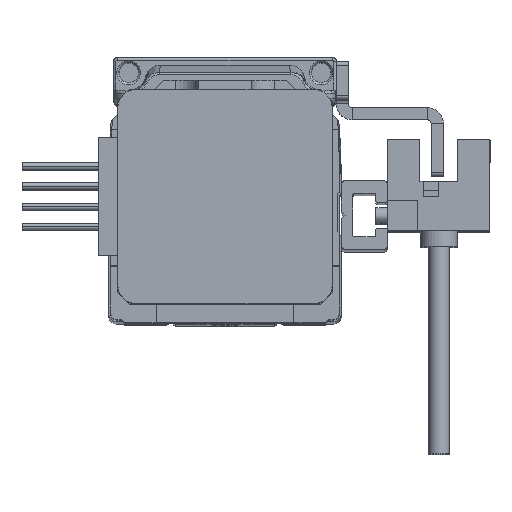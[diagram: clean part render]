
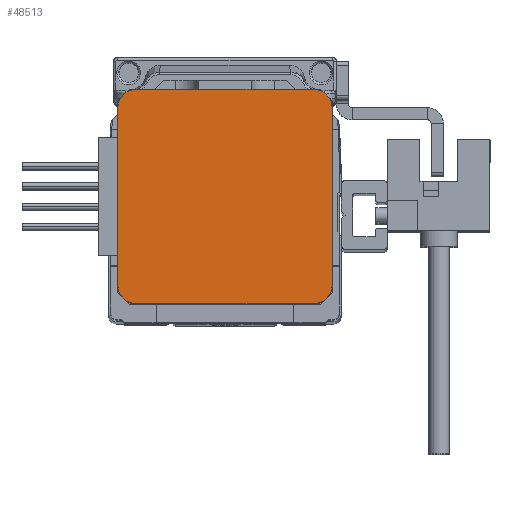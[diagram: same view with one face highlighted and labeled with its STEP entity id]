
A CAD part, top view. The second image highlights one B-rep face of the part: STEP entity #48513.
In plain terms, the highlighted planar face has unit normal (0, 0, 1) as drawn and (0, 0, -1) by its records, which use the part's own axes.
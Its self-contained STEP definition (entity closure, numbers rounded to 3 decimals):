
#5287 = AXIS2_PLACEMENT_3D ( 'NONE', #41218, #41255, #41242 ) ;
#11287 = VERTEX_POINT ( 'NONE', #28030 ) ;
#11323 = VERTEX_POINT ( 'NONE', #28091 ) ;
#11337 = VERTEX_POINT ( 'NONE', #28126 ) ;
#12451 = VERTEX_POINT ( 'NONE', #28286 ) ;
#12453 = VERTEX_POINT ( 'NONE', #28256 ) ;
#12465 = VERTEX_POINT ( 'NONE', #28310 ) ;
#13379 = VERTEX_POINT ( 'NONE', #31832 ) ;
#13410 = VERTEX_POINT ( 'NONE', #31923 ) ;
#27916 = EDGE_CURVE ( 'NONE', #12453, #11337, #56101, .T. ) ;
#27953 = EDGE_CURVE ( 'NONE', #12465, #11287, #56063, .T. ) ;
#27988 = EDGE_CURVE ( 'NONE', #12451, #11337, #56179, .T. ) ;
#28030 = CARTESIAN_POINT ( 'NONE',  ( -14., -11.5, 0. ) ) ;
#28031 = EDGE_CURVE ( 'NONE', #12451, #11323, #56243, .T. ) ;
#28058 = EDGE_CURVE ( 'NONE', #13379, #13410, #56230, .T. ) ;
#28059 = EDGE_CURVE ( 'NONE', #13379, #11323, #56208, .T. ) ;
#28091 = CARTESIAN_POINT ( 'NONE',  ( 14., 11.5, 0. ) ) ;
#28092 = EDGE_CURVE ( 'NONE', #12453, #11287, #56204, .T. ) ;
#28105 = EDGE_CURVE ( 'NONE', #12465, #13410, #56224, .T. ) ;
#28126 = CARTESIAN_POINT ( 'NONE',  ( 11.5, -14., 0. ) ) ;
#28256 = CARTESIAN_POINT ( 'NONE',  ( -11.5, -14., 0. ) ) ;
#28286 = CARTESIAN_POINT ( 'NONE',  ( 14., -11.5, 0. ) ) ;
#28310 = CARTESIAN_POINT ( 'NONE',  ( -14., 11.5, 0. ) ) ;
#31196 = CARTESIAN_POINT ( 'NONE',  ( -11.5, -11.5, 0. ) ) ;
#31233 = DIRECTION ( 'NONE',  ( -1., 0., 0. ) ) ;
#31265 = DIRECTION ( 'NONE',  ( 0., 0., -1. ) ) ;
#31305 = CARTESIAN_POINT ( 'NONE',  ( -11.5, 11.5, 0. ) ) ;
#31367 = DIRECTION ( 'NONE',  ( -1., 0., 0. ) ) ;
#31373 = DIRECTION ( 'NONE',  ( 0., 0., -1. ) ) ;
#31832 = CARTESIAN_POINT ( 'NONE',  ( 11.5, 14., 0. ) ) ;
#31923 = CARTESIAN_POINT ( 'NONE',  ( -11.5, 14., 0. ) ) ;
#32591 = CARTESIAN_POINT ( 'NONE',  ( -14., -14., 0. ) ) ;
#32628 = DIRECTION ( 'NONE',  ( 1., 0., 0. ) ) ;
#32651 = CARTESIAN_POINT ( 'NONE',  ( -14., -14., 0. ) ) ;
#32666 = DIRECTION ( 'NONE',  ( 0., -1., 0. ) ) ;
#32724 = DIRECTION ( 'NONE',  ( -1., 0., 0. ) ) ;
#32735 = CARTESIAN_POINT ( 'NONE',  ( 11.5, -11.5, 0. ) ) ;
#32738 = DIRECTION ( 'NONE',  ( 0., 0., -1. ) ) ;
#32791 = CARTESIAN_POINT ( 'NONE',  ( 14., -14., 0. ) ) ;
#32792 = DIRECTION ( 'NONE',  ( 0., 1., 0. ) ) ;
#32802 = CARTESIAN_POINT ( 'NONE',  ( 11.5, 11.5, 0. ) ) ;
#32804 = DIRECTION ( 'NONE',  ( -1., 0., 0. ) ) ;
#32811 = CARTESIAN_POINT ( 'NONE',  ( -14., 14., 0. ) ) ;
#32814 = DIRECTION ( 'NONE',  ( 0., 0., -1. ) ) ;
#32819 = DIRECTION ( 'NONE',  ( -1., 0., 0. ) ) ;
#37845 = FACE_OUTER_BOUND ( 'NONE', #40978, .T. ) ;
#39137 = ORIENTED_EDGE ( 'NONE', *, *, #28105, .T. ) ;
#39200 = ORIENTED_EDGE ( 'NONE', *, *, #27916, .F. ) ;
#39227 = ORIENTED_EDGE ( 'NONE', *, *, #28031, .F. ) ;
#39233 = ORIENTED_EDGE ( 'NONE', *, *, #27988, .T. ) ;
#39348 = ORIENTED_EDGE ( 'NONE', *, *, #28058, .F. ) ;
#39400 = ORIENTED_EDGE ( 'NONE', *, *, #28092, .T. ) ;
#39423 = ORIENTED_EDGE ( 'NONE', *, *, #27953, .F. ) ;
#39487 = ORIENTED_EDGE ( 'NONE', *, *, #28059, .T. ) ;
#40978 = EDGE_LOOP ( 'NONE', ( #39227, #39233, #39200, #39400, #39423, #39137, #39348, #39487 ) ) ;
#41216 = PLANE ( 'NONE',  #5287 ) ;
#41218 = CARTESIAN_POINT ( 'NONE',  ( 0., 0., 0. ) ) ;
#41242 = DIRECTION ( 'NONE',  ( -1., 0., 0. ) ) ;
#41255 = DIRECTION ( 'NONE',  ( 0., 0., -1. ) ) ;
#48513 = ADVANCED_FACE ( 'NONE', ( #37845 ), #41216, .T. ) ;
#56063 = LINE ( 'NONE', #32651, #56162 ) ;
#56076 = VECTOR ( 'NONE', #32628, 1000. ) ;
#56101 = LINE ( 'NONE', #32591, #56076 ) ;
#56162 = VECTOR ( 'NONE', #32666, 1000. ) ;
#56179 = CIRCLE ( 'NONE', #59268, 2.5 ) ;
#56204 = CIRCLE ( 'NONE', #59288, 2.5 ) ;
#56208 = CIRCLE ( 'NONE', #59250, 2.5 ) ;
#56212 = VECTOR ( 'NONE', #32819, 1000. ) ;
#56224 = CIRCLE ( 'NONE', #59253, 2.5 ) ;
#56228 = VECTOR ( 'NONE', #32792, 1000. ) ;
#56230 = LINE ( 'NONE', #32811, #56212 ) ;
#56243 = LINE ( 'NONE', #32791, #56228 ) ;
#59250 = AXIS2_PLACEMENT_3D ( 'NONE', #32802, #32814, #32804 ) ;
#59253 = AXIS2_PLACEMENT_3D ( 'NONE', #31305, #31373, #31367 ) ;
#59268 = AXIS2_PLACEMENT_3D ( 'NONE', #32735, #32738, #32724 ) ;
#59288 = AXIS2_PLACEMENT_3D ( 'NONE', #31196, #31265, #31233 ) ;
